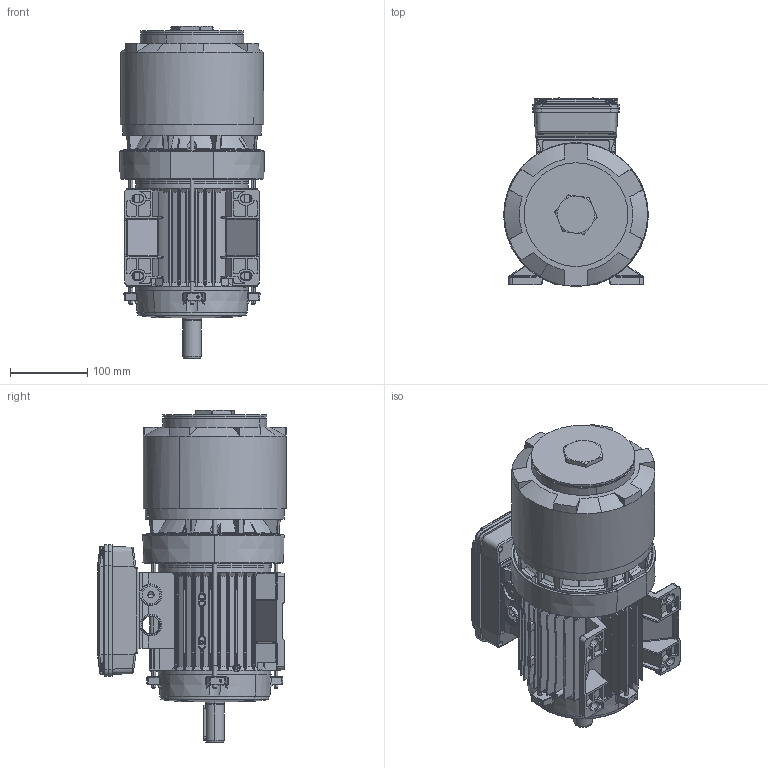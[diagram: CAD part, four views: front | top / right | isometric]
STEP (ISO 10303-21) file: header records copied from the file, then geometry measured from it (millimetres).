
FILE_DESCRIPTION (( 'STEP AP214' ), '1' );
FILE_NAME ('M08EA0011.STEP', '2020-11-03T10:45:33', ( '' ), ( '' ), 'SwSTEP 2.0', 'SolidWorks 2018', '' );
FILE_SCHEMA (( 'AUTOMOTIVE_DESIGN' ));
Length unit declared in the file: millimetre
Products named in the file (17): Convogliatore con pista d''attrito P2 BAH 90 - DDGY0018; Scudo Lato Freno BA90 P1 - DDAE0094; Carcassa 90 S B3; M08EA0011; Tappo a testa Esagonale M40x1,5; Ventola BA 90 - NT; Albero BA 90 S; Vite BAH 80; Cuffia BAH 90 - DDGV0017; Scatola per Morsettiera Doppia 90-100-112 - Completa; Guarnizione Coperchio Semplice Scatola BA 90 100 112 - DDAL0094; Vite per coperchio morsettiera; Coperchio per Scatola per Morsettiera Doppia 90-100-112; Scatola per Morsettiera Doppia 90-100-112; Tirante BA 90S - DBA60094; Scudo Lato Comando B3 BA-BM 90 - DDAD0094; Chiavetta 90
Assembly tree (22 placements, depth 3):
  M08EA0011
    Carcassa 90 S B3
    Scudo Lato Freno BA90 P1 - DDAE0094
    Convogliatore con pista d''attrito P2 BAH 90 - DDGY0018
    Chiavetta 90
    Scudo Lato Comando B3 BA-BM 90 - DDAD0094
    Tirante BA 90S - DBA60094  x4
    Scatola per Morsettiera Doppia 90-100-112 - Completa
      Scatola per Morsettiera Doppia 90-100-112
      Coperchio per Scatola per Morsettiera Doppia 90-100-112
      Vite per coperchio morsettiera  x4
      Guarnizione Coperchio Semplice Scatola BA 90 100 112 - DDAL0094
    Cuffia BAH 90 - DDGV0017
    Vite BAH 80
    Albero BA 90 S
    Ventola BA 90 - NT
    Tappo a testa Esagonale M40x1,5
Bounding box: 187 x 244 x 429 mm (x, y, z)
Volume: 2112284.2 mm3; surface area: 1054131.6 mm2
Topology: 25 solids, 25 shells, 4421 faces, 11829 edges, 7504 vertices
Faces by surface type: plane 1575, cylinder 1441, torus 495, bspline 460, cone 444, sphere 6
Entity records: 159198 total; most frequent: CARTESIAN_POINT 58631, ORIENTED_EDGE 22466, DIRECTION 18705, EDGE_CURVE 11233, VERTEX_POINT 7174, AXIS2_PLACEMENT_3D 7166, EDGE_LOOP 4403, LINE 4373
